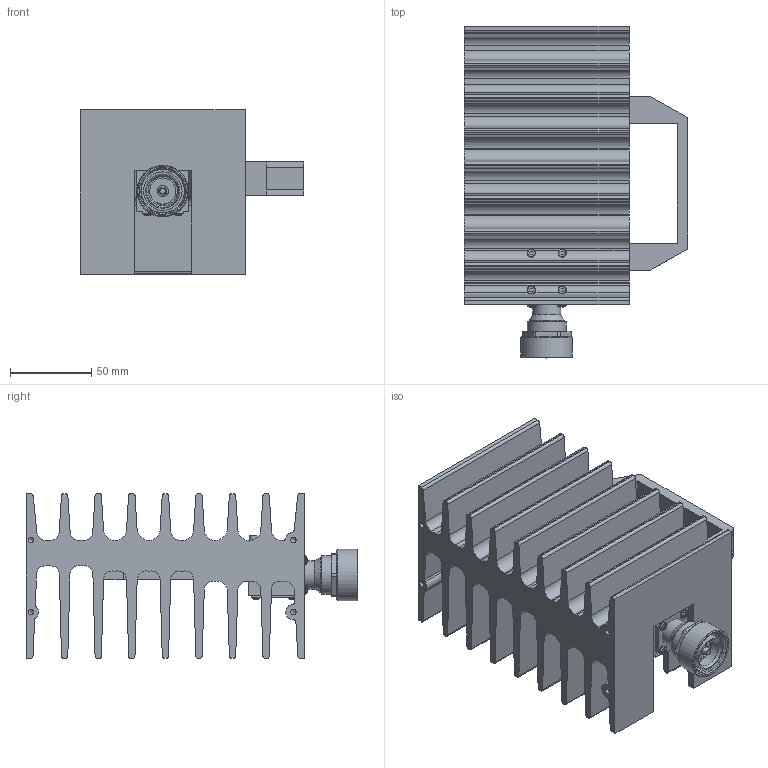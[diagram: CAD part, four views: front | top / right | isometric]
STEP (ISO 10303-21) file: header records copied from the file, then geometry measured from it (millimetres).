
FILE_DESCRIPTION(/* description */ ('Unknown'),/* implementation_level */ '2;1');
FILE_NAME(/* name */ '150-ST-ME Rev B step',/* time_stamp */ '2023-03-03T10:08:32-05:00',/* author */ ('Unknown'),/* organization */ ('Unknown'),/* preprocessor_version */ 'ST-DEVELOPER v18.102',/* originating_system */ 'Solid Edge',/* authorisation */ 'Unknown');
FILE_SCHEMA (('AUTOMOTIVE_DESIGN {1 0 10303 214 3 1 1}'));
Length unit declared in the file: millimetre
Products named in the file (1): 150-ST-ME
Bounding box: 137.67 x 204.57 x 101.6 mm (x, y, z)
Volume: 810399.6 mm3; surface area: 206760.3 mm2
Topology: 1 solids, 1 shells, 1277 faces, 3414 edges, 2249 vertices
Faces by surface type: plane 862, cylinder 254, bspline 87, cone 58, sphere 8, torus 8
Full cylindrical faces by diameter (mm): 2.845 x8, 3.175 x4, 3.307 x4, 4.648 x4, 5.004 x1, 5.156 x2, 7.01 x1, 9.525 x2, 10.414 x2, 16.129 x1, 17.45 x1, 18.11 x1, 21.082 x1, 21.615 x1, 21.844 x1, 23.749 x1, 23.952 x1, 24.435 x1, 26.67 x1, 27.661 x1, 31.75 x1
Entity records: 50637 total; most frequent: CARTESIAN_POINT 11228, ORIENTED_EDGE 6518, DIRECTION 5742, EDGE_CURVE 3259, VERTEX_POINT 2212, LINE 1962, VECTOR 1962, AXIS2_PLACEMENT_3D 1890
